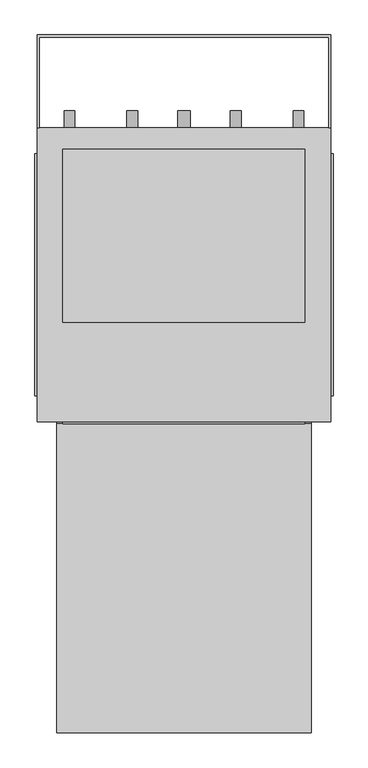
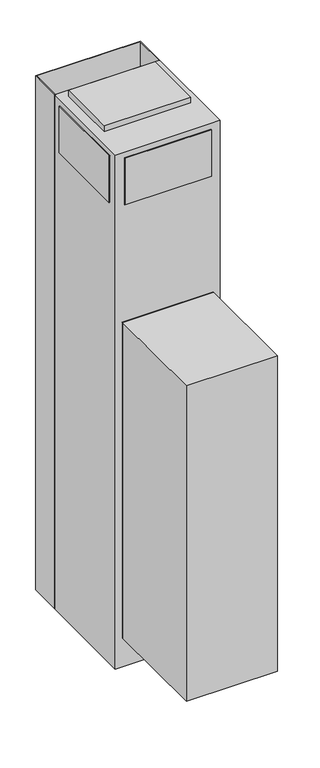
"""IFC4 building model written with IfcOpenShell, lengths in millimetres: proxy geometry, Exposed_Modular_Fan_Coil_Unit_-_42SHA_-_CARRIER_-_4-Pipe_-_NoRisers_2022 : Size 03 - 277v/60Hz/1Ph - 4/1 Coil."""

from ifc_helpers import new_model, si_unit, point, frame, frame_2d, origin, origin_with_axes, place, context, project, spatial, polyline, circle_curve, trimmed, segment, composite_curve, outline, extrude, source, transform, mapped, element, save


def mechanical_equipment_c9fd5dd9(model_context):
    return source(origin(), model_context, "Body", "SweptSolid", [
        extrude(outline(polyline([(555.625, -190.5), (555.625, -644.525), (180.975, -644.525), (180.975, -190.5), (555.625, -190.5)])), frame((0.0, 0.0, 127.0), z_axis=(0.0, 0.0, 1.0), x_axis=(1.0, 0.0, 0.0)), (0.0, 0.0, 1.0), 1371.6),
        extrude(outline(polyline([(152.4, 381.0), (584.2, 381.0), (584.2, 244.475), (581.025, 244.475), (581.025, 377.825), (155.575, 377.825), (155.575, 244.475), (152.4, 244.475), (152.4, 381.0)])), origin_with_axes(), (0.0, 0.0, 1.0), 2235.2),
        extrude(outline(composite_curve([segment(trimmed(circle_curve(frame_2d((990.6, 444.5)), 7.9375), [point((990.6, 452.4375))], [point((990.6, 436.5625))], False, "CARTESIAN"), True, "CONTINUOUS"), segment(trimmed(circle_curve(frame_2d((990.6, 444.5)), 7.9375), [point((990.6, 436.5625))], [point((990.6, 452.4375))], False, "CARTESIAN"), True, "CONTINUOUS")], self_intersect=False)), frame((0.0, 244.475, 0.0), z_axis=(0.0, 1.0, 0.0), x_axis=(0.0, 0.0, 1.0)), (0.0, 0.0, 1.0), 25.4),
        extrude(outline(composite_curve([segment(trimmed(circle_curve(frame_2d((990.6, 292.1)), 7.9375), [point((990.6, 300.0375))], [point((990.6, 284.1625))], False, "CARTESIAN"), True, "CONTINUOUS"), segment(trimmed(circle_curve(frame_2d((990.6, 292.1)), 7.9375), [point((990.6, 284.1625))], [point((990.6, 300.0375))], False, "CARTESIAN"), True, "CONTINUOUS")], self_intersect=False)), frame((0.0, 244.475, 0.0), z_axis=(0.0, 1.0, 0.0), x_axis=(0.0, 0.0, 1.0)), (0.0, 0.0, 1.0), 25.4),
        extrude(outline(composite_curve([segment(trimmed(circle_curve(frame_2d((76.2, 368.3)), 9.525), [point((76.2, 377.825))], [point((76.2, 358.775))], False, "CARTESIAN"), True, "CONTINUOUS"), segment(trimmed(circle_curve(frame_2d((76.2, 368.3)), 9.525), [point((76.2, 358.775))], [point((76.2, 377.825))], False, "CARTESIAN"), True, "CONTINUOUS")], self_intersect=False)), frame((0.0, 244.475, 0.0), z_axis=(0.0, 1.0, 0.0), x_axis=(0.0, 0.0, 1.0)), (0.0, 0.0, 1.0), 25.4),
        extrude(outline(composite_curve([segment(trimmed(circle_curve(frame_2d((990.6, 536.575)), 7.9375), [point((990.6, 544.5125))], [point((990.6, 528.6375))], False, "CARTESIAN"), True, "CONTINUOUS"), segment(trimmed(circle_curve(frame_2d((990.6, 536.575)), 7.9375), [point((990.6, 528.6375))], [point((990.6, 544.5125))], False, "CARTESIAN"), True, "CONTINUOUS")], self_intersect=False)), frame((0.0, 244.475, 0.0), z_axis=(0.0, 1.0, 0.0), x_axis=(0.0, 0.0, 1.0)), (0.0, 0.0, 1.0), 25.4),
        extrude(outline(composite_curve([segment(trimmed(circle_curve(frame_2d((990.6, 200.025)), 7.9375), [point((990.6, 207.9625))], [point((990.6, 192.0875))], False, "CARTESIAN"), True, "CONTINUOUS"), segment(trimmed(circle_curve(frame_2d((990.6, 200.025)), 7.9375), [point((990.6, 192.0875))], [point((990.6, 207.9625))], False, "CARTESIAN"), True, "CONTINUOUS")], self_intersect=False)), frame((0.0, 244.475, 0.0), z_axis=(0.0, 1.0, 0.0), x_axis=(0.0, 0.0, 1.0)), (0.0, 0.0, 1.0), 25.4),
        extrude(outline(polyline([(555.625, -190.5), (180.975, -190.5), (180.975, -187.325), (555.625, -187.325), (555.625, -190.5)])), frame((0.0, 0.0, 127.0), z_axis=(0.0, 0.0, 1.0), x_axis=(1.0, 0.0, 0.0)), (0.0, 0.0, 1.0), 1371.6),
        extrude(outline(polyline([(587.375, 206.375), (587.375, -149.225), (584.2, -149.225), (584.2, 206.375), (587.375, 206.375)])), frame((0.0, 0.0, 2006.6), z_axis=(0.0, 0.0, 1.0), x_axis=(1.0, 0.0, 0.0)), (0.0, 0.0, 1.0), 203.2),
        extrude(outline(polyline([(149.225, -149.225), (149.225, 206.375), (152.4, 206.375), (152.4, -149.225), (149.225, -149.225)])), frame((0.0, 0.0, 2006.6), z_axis=(0.0, 0.0, 1.0), x_axis=(1.0, 0.0, 0.0)), (0.0, 0.0, 1.0), 203.2),
        extrude(outline(polyline([(546.1, -190.5), (190.5, -190.5), (190.5, -187.325), (546.1, -187.325), (546.1, -190.5)])), frame((0.0, 0.0, 2006.6), z_axis=(0.0, 0.0, 1.0), x_axis=(1.0, 0.0, 0.0)), (0.0, 0.0, 1.0), 203.2),
        extrude(outline(polyline([(546.1, 212.725), (546.1, -41.275), (190.5, -41.275), (190.5, 212.725), (546.1, 212.725)])), frame((0.0, 0.0, 2235.2), z_axis=(0.0, 0.0, 1.0), x_axis=(1.0, 0.0, 0.0)), (0.0, 0.0, 1.0), 25.4),
        extrude(outline(polyline([(584.2, 244.475), (584.2, -187.325), (152.4, -187.325), (152.4, 244.475), (584.2, 244.475)])), origin_with_axes(), (0.0, 0.0, 1.0), 2235.2),
    ])


if __name__ == "__main__":
    model = new_model("IFC4")
    model_context = context("Model", 3, world=origin())
    ifc_project = project(units=[si_unit("LENGTHUNIT", "METRE", prefix="MILLI")], contexts=[model_context])
    site = spatial("IfcSite", under=ifc_project)
    building = spatial("IfcBuilding", under=site)
    placement = place(None, origin())
    mechanical_equipment_shape = mechanical_equipment_c9fd5dd9(model_context)
    element("IfcBuildingElementProxy", 1, Name="Exposed_Modular_Fan_Coil_Unit_-_42SHA_-_CARRIER_-_4-Pipe_-_NoRisers_2022 : Size 03 - 277v/60Hz/1Ph - 4/1 Coil", ObjectType="Exposed_Modular_Fan_Coil_Unit_-_42SHA_-_CARRIER_-_4-Pipe_-_NoRisers_2022 : Size 03 - 277v/60Hz/1Ph - 4/1 Coil", at=placement, inside=building, context=model_context, shape_type="MappedRepresentation", body=[
        mapped(mechanical_equipment_shape, transform((0.0, 0.0, 0.0), x_axis=(1.0, 0.0, 0.0), y_axis=(0.0, 1.0, 0.0), z_axis=(0.0, 0.0, 1.0))),
    ])
    save(model, "model.ifc")
